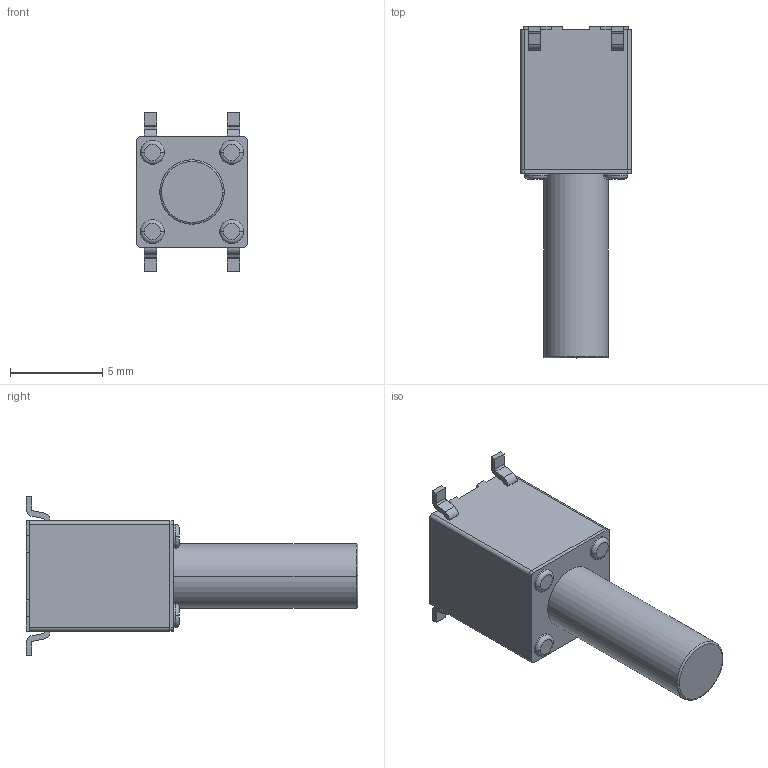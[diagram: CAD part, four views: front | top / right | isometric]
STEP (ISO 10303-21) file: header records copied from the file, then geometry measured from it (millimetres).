
FILE_DESCRIPTION((''),'2;1');
FILE_NAME('JQA6060YC-C1801-01AG-110_ASM','2026-05-13T15:43:57',('Admin'),(''),'CREO PARAMETRIC BY PTC INC, 2019224','CREO PARAMETRIC BY PTC INC, 2019224','');
FILE_SCHEMA(('AUTOMOTIVE_DESIGN { 1 0 10303 214 1 1 1 1 }'));
Length unit declared in the file: millimetre
Products named in the file (3): JQA6060YC-C1801-01AG-110_01; JQA6060YC-C1801-01AG-110_02; JQA6060YC-C1801-01AG-110_ASM
Assembly tree (2 placements, depth 2):
  JQA6060YC-C1801-01AG-110_ASM
    JQA6060YC-C1801-01AG-110_01
    JQA6060YC-C1801-01AG-110_02
Bounding box: 6 x 18 x 8.6 mm (x, y, z)
Volume: 382.3 mm3; surface area: 457.3 mm2
Topology: 2 solids, 2 shells, 143 faces, 378 edges, 262 vertices
Faces by surface type: plane 81, cylinder 52, torus 10
Entity records: 6159 total; most frequent: DIRECTION 810, CARTESIAN_POINT 781, ORIENTED_EDGE 736, PRESENTATION_STYLE_ASSIGNMENT 372, EDGE_CURVE 368, STYLED_ITEM 328, CURVE_STYLE 327, AXIS2_PLACEMENT_3D 278
